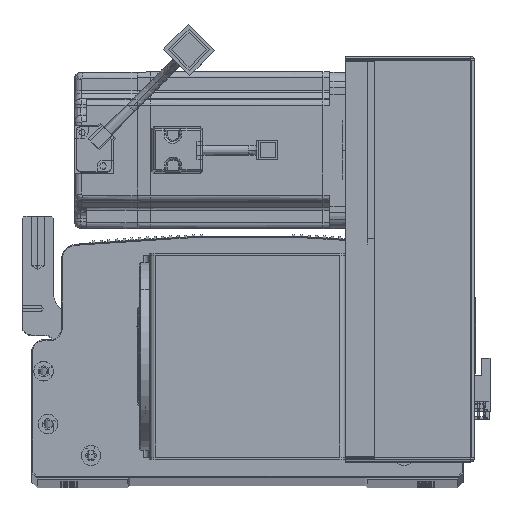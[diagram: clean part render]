
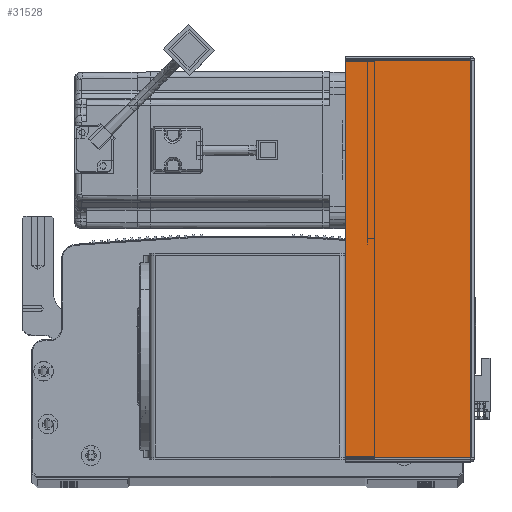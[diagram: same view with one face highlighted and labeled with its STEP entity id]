
A CAD part, top view. The second image highlights one B-rep face of the part: STEP entity #31528.
In plain terms, the highlighted planar face has unit normal (0, 0, 1) as drawn and (0, -1, 0) by its records, which use the part's own axes.
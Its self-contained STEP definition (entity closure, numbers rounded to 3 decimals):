
#612 = VECTOR ( 'NONE', #43722, 1000. ) ;
#1870 = EDGE_LOOP ( 'NONE', ( #15189, #27863, #20173, #88264 ) ) ;
#4684 = EDGE_CURVE ( 'NONE', #69519, #85910, #65809, .T. ) ;
#8767 = PLANE ( 'NONE',  #31255 ) ;
#15189 = ORIENTED_EDGE ( 'NONE', *, *, #35519, .F. ) ;
#15306 = CARTESIAN_POINT ( 'NONE',  ( 0.737, -1.5, -203.293 ) ) ;
#15949 = CARTESIAN_POINT ( 'NONE',  ( 64.5, -1.5, -0.707 ) ) ;
#17438 = LINE ( 'NONE', #43421, #88386 ) ;
#18042 = VECTOR ( 'NONE', #85256, 1000. ) ;
#20173 = ORIENTED_EDGE ( 'NONE', *, *, #62488, .T. ) ;
#27282 = CARTESIAN_POINT ( 'NONE',  ( 0.737, -1.5, -0.707 ) ) ;
#27863 = ORIENTED_EDGE ( 'NONE', *, *, #49762, .T. ) ;
#28144 = CARTESIAN_POINT ( 'NONE',  ( 0., -1.5, -0.707 ) ) ;
#30637 = CARTESIAN_POINT ( 'NONE',  ( 0., -1.5, 0. ) ) ;
#31255 = AXIS2_PLACEMENT_3D ( 'NONE', #30637, #59904, #39072 ) ;
#31528 = ADVANCED_FACE ( 'NONE', ( #43815 ), #8767, .F. ) ;
#35519 = EDGE_CURVE ( 'NONE', #84305, #69519, #41310, .T. ) ;
#39072 = DIRECTION ( 'NONE',  ( -1., 0., 0. ) ) ;
#40371 = CARTESIAN_POINT ( 'NONE',  ( 0., -1.5, -203.293 ) ) ;
#41310 = LINE ( 'NONE', #47602, #18042 ) ;
#43421 = CARTESIAN_POINT ( 'NONE',  ( 64.5, -1.5, 0. ) ) ;
#43722 = DIRECTION ( 'NONE',  ( 1., 0., 0. ) ) ;
#43815 = FACE_OUTER_BOUND ( 'NONE', #1870, .T. ) ;
#47204 = LINE ( 'NONE', #40371, #48411 ) ;
#47602 = CARTESIAN_POINT ( 'NONE',  ( 0.737, -1.5, 0. ) ) ;
#48411 = VECTOR ( 'NONE', #85182, 1000. ) ;
#49762 = EDGE_CURVE ( 'NONE', #84305, #60451, #47204, .T. ) ;
#59904 = DIRECTION ( 'NONE',  ( 0., 1., 0. ) ) ;
#60451 = VERTEX_POINT ( 'NONE', #70966 ) ;
#62488 = EDGE_CURVE ( 'NONE', #60451, #85910, #17438, .T. ) ;
#65528 = DIRECTION ( 'NONE',  ( 0., 0., 1. ) ) ;
#65809 = LINE ( 'NONE', #28144, #612 ) ;
#69519 = VERTEX_POINT ( 'NONE', #27282 ) ;
#70966 = CARTESIAN_POINT ( 'NONE',  ( 64.5, -1.5, -203.293 ) ) ;
#84305 = VERTEX_POINT ( 'NONE', #15306 ) ;
#85182 = DIRECTION ( 'NONE',  ( 1., 0., 0. ) ) ;
#85256 = DIRECTION ( 'NONE',  ( 0., 0., 1. ) ) ;
#85910 = VERTEX_POINT ( 'NONE', #15949 ) ;
#88264 = ORIENTED_EDGE ( 'NONE', *, *, #4684, .F. ) ;
#88386 = VECTOR ( 'NONE', #65528, 1000. ) ;
